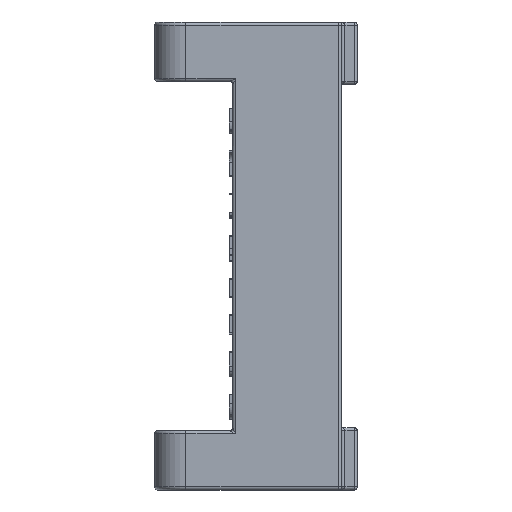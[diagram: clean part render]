
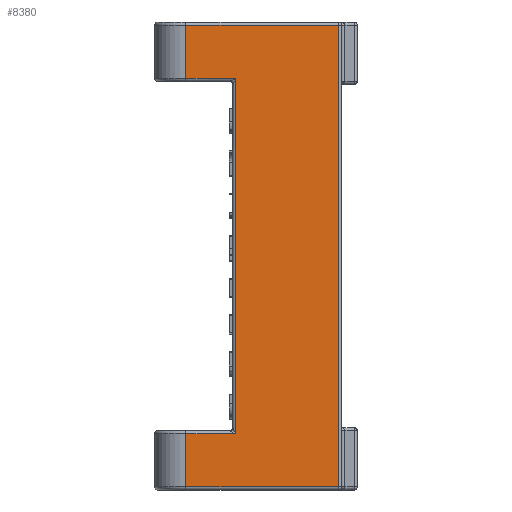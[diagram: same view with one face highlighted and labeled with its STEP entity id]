
A CAD part, front view. The second image highlights one B-rep face of the part: STEP entity #8380.
In plain terms, the highlighted planar face has unit normal (0, -1, 0).
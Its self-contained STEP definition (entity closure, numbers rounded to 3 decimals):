
#4068=CARTESIAN_POINT('',(3.2,-2.,3.6));
#4069=VERTEX_POINT('',#4068);
#4101=CARTESIAN_POINT('',(0.0,-2.,3.6));
#4102=VERTEX_POINT('',#4101);
#4110=CARTESIAN_POINT('',(0.0,-2.,3.6));
#4111=DIRECTION('',(1.0,0.0,0.0));
#4112=VECTOR('',#4111,3.2);
#4113=LINE('',#4110,#4112);
#4114=EDGE_CURVE('',#4102,#4069,#4113,.T.);
#4238=CARTESIAN_POINT('',(3.2,-2.,26.4));
#4239=VERTEX_POINT('',#4238);
#4425=CARTESIAN_POINT('',(0.0,-2.,26.4));
#4426=VERTEX_POINT('',#4425);
#4427=CARTESIAN_POINT('',(3.2,-2.,26.4));
#4428=DIRECTION('',(-1.0,0.0,0.0));
#4429=VECTOR('',#4428,3.2);
#4430=LINE('',#4427,#4429);
#4431=EDGE_CURVE('',#4239,#4426,#4430,.T.);
#6691=CARTESIAN_POINT('',(9.8,-2.,29.8));
#6692=VERTEX_POINT('',#6691);
#6724=CARTESIAN_POINT('',(9.8,-2.,0.2));
#6725=VERTEX_POINT('',#6724);
#6749=CARTESIAN_POINT('',(0.0,-2.,0.2));
#6750=VERTEX_POINT('',#6749);
#6767=CARTESIAN_POINT('',(9.8,-2.,0.2));
#6768=DIRECTION('',(-1.0,0.0,0.0));
#6769=VECTOR('',#6768,9.8);
#6770=LINE('',#6767,#6769);
#6771=EDGE_CURVE('',#6725,#6750,#6770,.T.);
#6816=CARTESIAN_POINT('',(9.8,-2.,29.8));
#6817=DIRECTION('',(0.0,0.0,-1.0));
#6818=VECTOR('',#6817,29.6);
#6819=LINE('',#6816,#6818);
#6820=EDGE_CURVE('',#6692,#6725,#6819,.T.);
#6893=CARTESIAN_POINT('',(0.0,-2.,29.8));
#6894=VERTEX_POINT('',#6893);
#6902=CARTESIAN_POINT('',(0.0,-2.,29.8));
#6903=DIRECTION('',(1.0,0.0,0.0));
#6904=VECTOR('',#6903,9.8);
#6905=LINE('',#6902,#6904);
#6906=EDGE_CURVE('',#6894,#6692,#6905,.T.);
#8014=CARTESIAN_POINT('',(0.0,-2.,0.2));
#8015=DIRECTION('',(0.0,0.0,1.0));
#8016=VECTOR('',#8015,3.4);
#8017=LINE('',#8014,#8016);
#8018=EDGE_CURVE('',#6750,#4102,#8017,.T.);
#8280=CARTESIAN_POINT('',(3.2,-2.,3.6));
#8281=DIRECTION('',(0.0,0.0,1.0));
#8282=VECTOR('',#8281,22.8);
#8283=LINE('',#8280,#8282);
#8284=EDGE_CURVE('',#4069,#4239,#8283,.T.);
#8360=CARTESIAN_POINT('',(10.,-2.,0.0));
#8361=DIRECTION('',(0.0,-1.0,0.0));
#8362=DIRECTION('',(0.0,0.0,-1.0));
#8363=AXIS2_PLACEMENT_3D('',#8360,#8361,#8362);
#8364=PLANE('',#8363);
#8365=ORIENTED_EDGE('',*,*,#6906,.F.);
#8366=CARTESIAN_POINT('',(0.0,-2.,26.4));
#8367=DIRECTION('',(0.0,0.0,1.0));
#8368=VECTOR('',#8367,3.4);
#8369=LINE('',#8366,#8368);
#8370=EDGE_CURVE('',#4426,#6894,#8369,.T.);
#8371=ORIENTED_EDGE('',*,*,#8370,.F.);
#8372=ORIENTED_EDGE('',*,*,#4431,.F.);
#8373=ORIENTED_EDGE('',*,*,#8284,.F.);
#8374=ORIENTED_EDGE('',*,*,#4114,.F.);
#8375=ORIENTED_EDGE('',*,*,#8018,.F.);
#8376=ORIENTED_EDGE('',*,*,#6771,.F.);
#8377=ORIENTED_EDGE('',*,*,#6820,.F.);
#8378=EDGE_LOOP('',(#8365,#8371,#8372,#8373,#8374,#8375,#8376,#8377));
#8379=FACE_OUTER_BOUND('',#8378,.T.);
#8380=ADVANCED_FACE('',(#8379),#8364,.T.);
